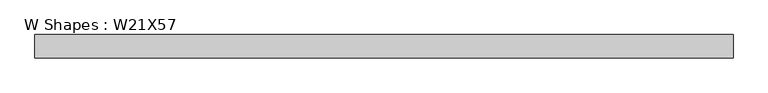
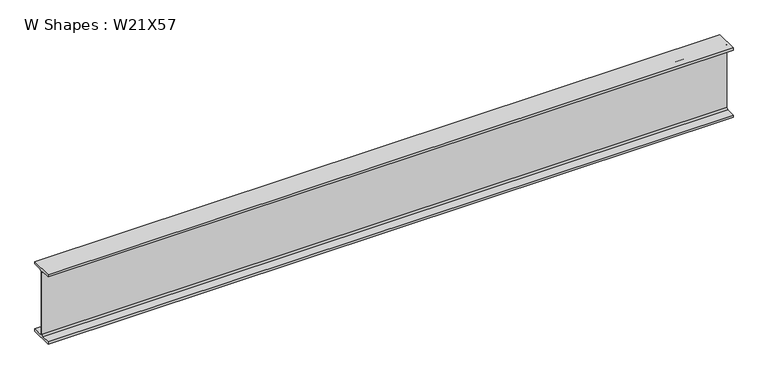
"""IFC4 building model written with IfcOpenShell, lengths in millimetres: beam geometry, W Shapes : W21X57."""

from ifc_helpers import new_model, si_unit, point, frame, frame_2d, origin, place, context, project, spatial, polyline, circle_curve, trimmed, segment, composite_curve, outline, extrude, source, transform, mapped, element, save


def w_shapes_w21x57_ac06ad1a(model_context):
    return source(origin(), model_context, "Body", "SweptSolid", [
        extrude(outline(composite_curve([segment(polyline([(83.312, -251.46), (83.312, -267.97), (-83.312, -267.97), (-83.312, -251.46), (-17.8435, -251.46)]), True, "CONTINUOUS"), segment(trimmed(circle_curve(frame_2d((-17.8435, -238.76)), 12.7), [point((-17.8435, -251.46))], [point((-5.1435, -238.76))], True, "CARTESIAN"), True, "CONTINUOUS"), segment(polyline([(-5.1435, -238.76), (-5.1435, 238.76)]), True, "CONTINUOUS"), segment(trimmed(circle_curve(frame_2d((-17.8435, 238.76)), 12.7), [point((-5.1435, 238.76))], [point((-17.8435, 251.46))], True, "CARTESIAN"), True, "CONTINUOUS"), segment(polyline([(-17.8435, 251.46), (-83.312, 251.46), (-83.312, 267.97), (83.312, 267.97), (83.312, 251.46), (17.8435, 251.46)]), True, "CONTINUOUS"), segment(trimmed(circle_curve(frame_2d((17.8435, 238.76)), 12.7), [point((17.8435, 251.46))], [point((5.1435, 238.76))], True, "CARTESIAN"), True, "CONTINUOUS"), segment(polyline([(5.1435, 238.76), (5.1435, -238.76)]), True, "CONTINUOUS"), segment(trimmed(circle_curve(frame_2d((17.8435, -238.76)), 12.7), [point((5.1435, -238.76))], [point((17.8435, -251.46))], True, "CARTESIAN"), True, "CONTINUOUS"), segment(polyline([(17.8435, -251.46), (83.312, -251.46)]), True, "CONTINUOUS")], self_intersect=False)), frame((-2544.259694, 0.0, 0.0), z_axis=(1.0, 0.0, 0.0), x_axis=(0.0, 1.0, 0.0)), (0.0, 0.0, 1.0), 5013.6498225),
    ])


if __name__ == "__main__":
    model = new_model("IFC4")
    model_context = context("Model", 3, world=origin())
    ifc_project = project(units=[si_unit("LENGTHUNIT", "METRE", prefix="MILLI")], contexts=[model_context])
    site = spatial("IfcSite", under=ifc_project)
    building = spatial("IfcBuilding", under=site)
    placement = place(None, origin())
    w_shapes_w21x57_shape = w_shapes_w21x57_ac06ad1a(model_context)
    element("IfcBeam", 1, ObjectType="W Shapes : W21X57", at=placement, inside=building, context=model_context, shape_type="MappedRepresentation", body=[
        mapped(w_shapes_w21x57_shape, transform((0.0, 0.0, 0.0), x_axis=(1.0, 0.0, 0.0), y_axis=(0.0, 1.0, 0.0), z_axis=(0.0, 0.0, 1.0))),
    ])
    save(model, "model.ifc")
